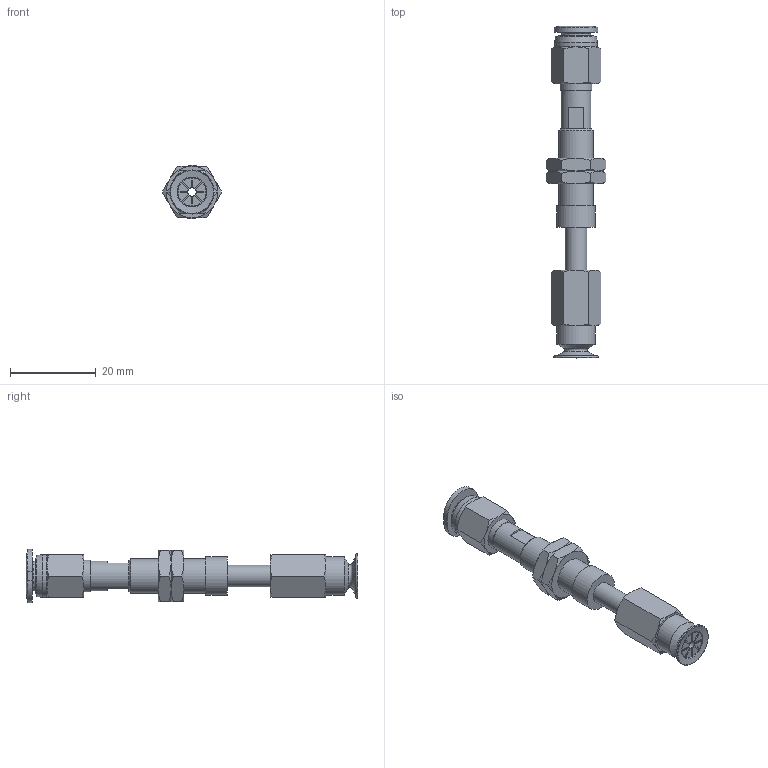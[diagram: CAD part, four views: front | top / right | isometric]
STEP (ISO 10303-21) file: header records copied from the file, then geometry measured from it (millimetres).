
FILE_DESCRIPTION(('STEP AP203'),'1');
FILE_NAME('-O.stp','2025-08-26T08:42:34',(' '),(' '),'Spatial InterOp 3D',' ',' ');
FILE_SCHEMA(('CONFIG_CONTROL_DESIGN'));
Length unit declared in the file: millimetre
Products named in the file (7): BNABPATS-10B-10-※-O; ADAPTER; NAPATS-10A-10--M; NAPATS-10A-10--F; Nut-10A-S; BPAG-10B-※_3D; PC-C_06-M5
Assembly tree (7 placements, depth 2):
  BNABPATS-10B-10-※-O
    ADAPTER
    NAPATS-10A-10--M
    NAPATS-10A-10--F
    Nut-10A-S  x2
    BPAG-10B-※_3D
    PC-C_06-M5
Bounding box: 13.86 x 77.48 x 12.4 mm (x, y, z)
Volume: 3521.3 mm3; surface area: 5209.3 mm2
Topology: 6 solids, 9 shells, 198 faces, 436 edges, 268 vertices
Faces by surface type: plane 82, cone 62, cylinder 34, torus 13, bspline 4, revolution 3
Full cylindrical faces by diameter (mm): 2 x3, 4 x4, 4.134 x1, 5 x3, 6 x2, 7 x3, 7.188 x2, 7.4 x1, 8 x1, 8.2 x1, 9 x2, 10 x1
Entity records: 5274 total; most frequent: CARTESIAN_POINT 1378, DIRECTION 749, ORIENTED_EDGE 652, EDGE_CURVE 328, AXIS2_PLACEMENT_3D 321, EDGE_LOOP 250, VERTEX_POINT 230, FACE_OUTER_BOUND 151
